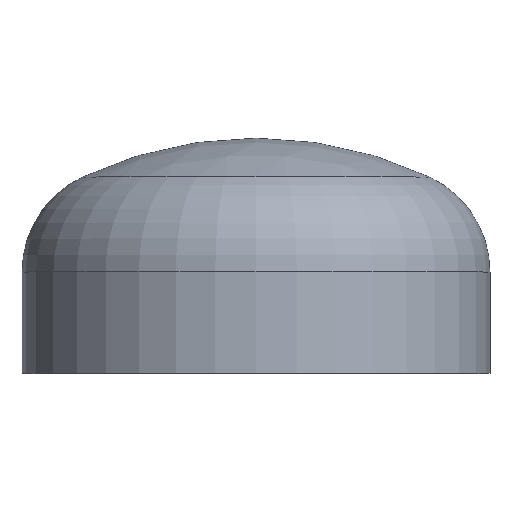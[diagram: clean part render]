
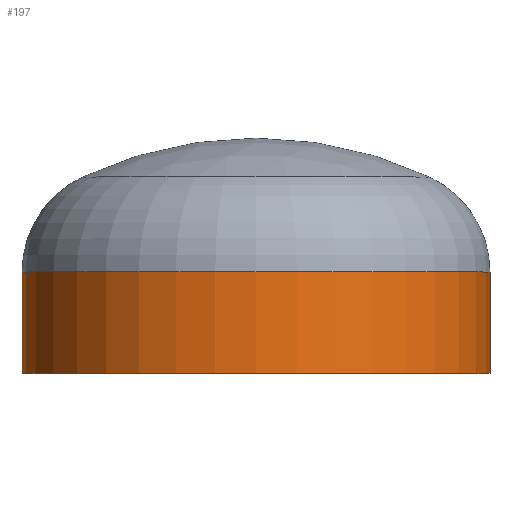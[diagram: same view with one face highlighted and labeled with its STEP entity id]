
A CAD part, top view. The second image highlights one B-rep face of the part: STEP entity #197.
In plain terms, the highlighted cylindrical face has radius 254 mm (diameter 508 mm), a partial arc.
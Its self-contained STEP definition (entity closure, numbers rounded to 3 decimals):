
#3 = LINE ( 'NONE', #156, #170 ) ;
#4 = CARTESIAN_POINT ( 'NONE',  ( -254., 110., 0. ) ) ;
#8 = EDGE_LOOP ( 'NONE', ( #131, #141, #146, #82 ) ) ;
#17 = VERTEX_POINT ( 'NONE', #297 ) ;
#30 = AXIS2_PLACEMENT_3D ( 'NONE', #179, #270, #288 ) ;
#34 = VERTEX_POINT ( 'NONE', #293 ) ;
#76 = AXIS2_PLACEMENT_3D ( 'NONE', #329, #328, #324 ) ;
#82 = ORIENTED_EDGE ( 'NONE', *, *, #385, .F. ) ;
#83 = EDGE_CURVE ( 'NONE', #132, #138, #174, .T. ) ;
#87 = EDGE_CURVE ( 'NONE', #34, #132, #365, .T. ) ;
#114 = CARTESIAN_POINT ( 'NONE',  ( -254., 0., 0. ) ) ;
#131 = ORIENTED_EDGE ( 'NONE', *, *, #87, .T. ) ;
#132 = VERTEX_POINT ( 'NONE', #4 ) ;
#133 = DIRECTION ( 'NONE',  ( 1., 0., 0. ) ) ;
#135 = FACE_OUTER_BOUND ( 'NONE', #8, .T. ) ;
#138 = VERTEX_POINT ( 'NONE', #114 ) ;
#141 = ORIENTED_EDGE ( 'NONE', *, *, #83, .T. ) ;
#146 = ORIENTED_EDGE ( 'NONE', *, *, #372, .F. ) ;
#147 = VECTOR ( 'NONE', #241, 1000. ) ;
#155 = DIRECTION ( 'NONE',  ( 0., -1., 0. ) ) ;
#156 = CARTESIAN_POINT ( 'NONE',  ( 254., 0., 0. ) ) ;
#170 = VECTOR ( 'NONE', #155, 1000. ) ;
#174 = LINE ( 'NONE', #341, #147 ) ;
#179 = CARTESIAN_POINT ( 'NONE',  ( 0., 0., 0. ) ) ;
#197 = ADVANCED_FACE ( 'NONE', ( #135 ), #326, .T. ) ;
#199 = AXIS2_PLACEMENT_3D ( 'NONE', #383, #247, #133 ) ;
#241 = DIRECTION ( 'NONE',  ( 0., -1., 0. ) ) ;
#246 = CIRCLE ( 'NONE', #199, 254. ) ;
#247 = DIRECTION ( 'NONE',  ( 0., -1., 0. ) ) ;
#270 = DIRECTION ( 'NONE',  ( 0., -1., 0. ) ) ;
#288 = DIRECTION ( 'NONE',  ( 1., 0., 0. ) ) ;
#293 = CARTESIAN_POINT ( 'NONE',  ( 254., 110., 0. ) ) ;
#297 = CARTESIAN_POINT ( 'NONE',  ( 254., 0., 0. ) ) ;
#324 = DIRECTION ( 'NONE',  ( 1., 0., 0. ) ) ;
#326 = CYLINDRICAL_SURFACE ( 'NONE', #30, 254. ) ;
#328 = DIRECTION ( 'NONE',  ( 0., -1., 0. ) ) ;
#329 = CARTESIAN_POINT ( 'NONE',  ( 0., 110., 0. ) ) ;
#341 = CARTESIAN_POINT ( 'NONE',  ( -254., 0., 0. ) ) ;
#365 = CIRCLE ( 'NONE', #76, 254. ) ;
#372 = EDGE_CURVE ( 'NONE', #17, #138, #246, .T. ) ;
#383 = CARTESIAN_POINT ( 'NONE',  ( 0., 0., 0. ) ) ;
#385 = EDGE_CURVE ( 'NONE', #34, #17, #3, .T. ) ;
